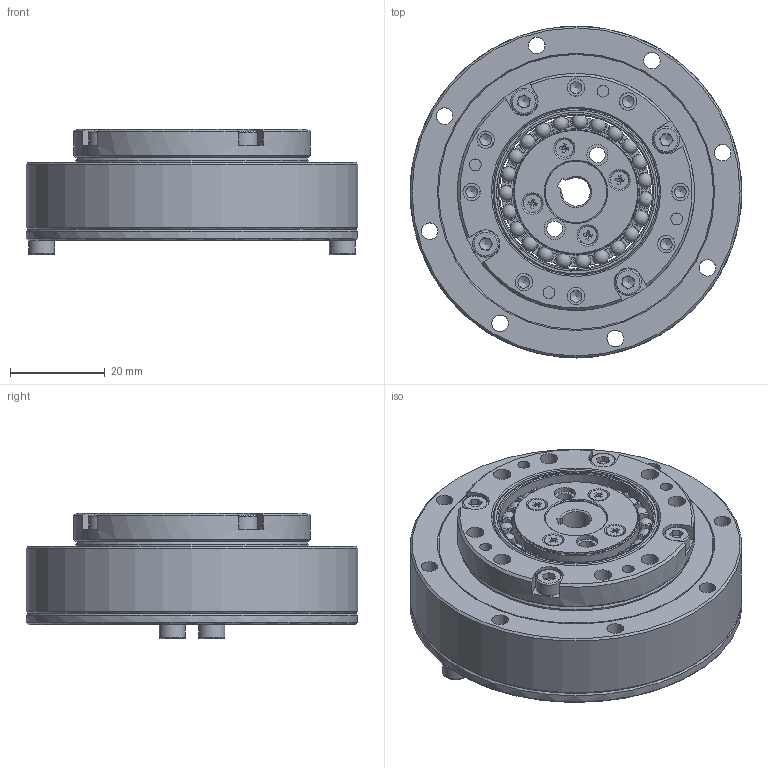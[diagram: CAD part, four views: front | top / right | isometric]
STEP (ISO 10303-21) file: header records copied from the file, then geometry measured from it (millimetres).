
FILE_DESCRIPTION (( 'STEP AP203' ), '1' );
FILE_NAME ('LHSG-14-XXX-C-I.STEP', '2023-07-01T08:59:52', ( '' ), ( '' ), 'SwSTEP 2.0', 'SolidWorks 2013', '' );
FILE_SCHEMA (( 'CONFIG_CONTROL_DESIGN' ));
Length unit declared in the file: millimetre
Products named in the file (1): LHSG-14-XXX-C-I
Bounding box: 70 x 70 x 26.5 mm (x, y, z)
Volume: 52449 mm3; surface area: 38401 mm2
Topology: 27 solids, 36 shells, 613 faces, 1557 edges, 1011 vertices
Faces by surface type: plane 311, cylinder 164, cone 86, sphere 23, bspline 22, torus 7
Full cylindrical faces by diameter (mm): 1.6 x4, 2.4 x4, 2.5 x20, 3 x6, 3.3 x2, 3.5 x16, 3.7 x8, 3.8 x4, 4.5 x2, 5.5 x6, 13 x2, 14 x1, 23.5 x1, 24.1 x1, 25.07 x1, 26 x1, 26.707 x2, 27.6 x1, 29.5 x1, 31.4 x1, 32.36 x2, 33.5 x2, 34 x1, 34.7 x1, 35.499 x1, 38 x2, 38.01 x1, 40.5 x1, 45.75 x1, 48 x1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
Entity records: 18166 total; most frequent: CARTESIAN_POINT 4969, DIRECTION 2904, ORIENTED_EDGE 2306, AXIS2_PLACEMENT_3D 1240, EDGE_CURVE 1153, EDGE_LOOP 916, VERTEX_POINT 837, FACE_OUTER_BOUND 732
